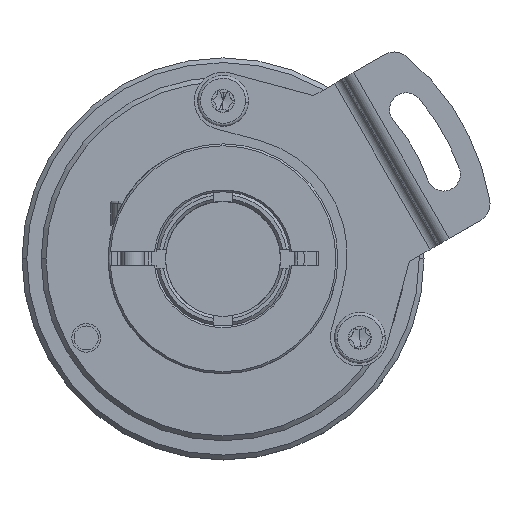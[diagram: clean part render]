
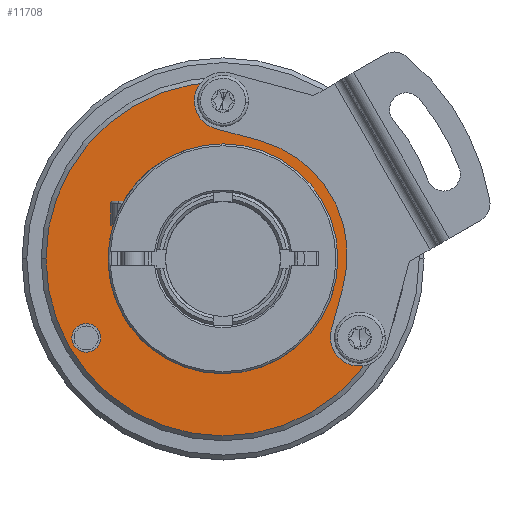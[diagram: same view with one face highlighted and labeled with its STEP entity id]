
A CAD part, top view. The second image highlights one B-rep face of the part: STEP entity #11708.
In plain terms, the highlighted planar face has unit normal (0, 0, 1).
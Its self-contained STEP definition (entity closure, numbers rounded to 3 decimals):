
#3782 = VERTEX_POINT ( 'NONE', #14486 ) ;
#4086 = EDGE_CURVE ( 'NONE', #3782, #4087, #9313, .T. ) ;
#4087 = VERTEX_POINT ( 'NONE', #9304 ) ;
#4155 = VERTEX_POINT ( 'NONE', #9434 ) ;
#4157 = EDGE_CURVE ( 'NONE', #4155, #4158, #9433, .T. ) ;
#4158 = VERTEX_POINT ( 'NONE', #9428 ) ;
#4197 = VERTEX_POINT ( 'NONE', #9533 ) ;
#4199 = EDGE_CURVE ( 'NONE', #4197, #4200, #9532, .T. ) ;
#4200 = VERTEX_POINT ( 'NONE', #9527 ) ;
#4241 = EDGE_CURVE ( 'NONE', #4242, #4243, #9579, .T. ) ;
#4242 = VERTEX_POINT ( 'NONE', #9575 ) ;
#4243 = VERTEX_POINT ( 'NONE', #9574 ) ;
#4265 = VERTEX_POINT ( 'NONE', #9661 ) ;
#4267 = EDGE_CURVE ( 'NONE', #4265, #4268, #9660, .T. ) ;
#4268 = VERTEX_POINT ( 'NONE', #9655 ) ;
#9304 = CARTESIAN_POINT ( 'NONE',  ( 15.789, -8.25, 0. ) ) ;
#9305 = DIRECTION ( 'NONE',  ( 1., 0., 0. ) ) ;
#9306 = DIRECTION ( 'NONE',  ( 0., 0., 1. ) ) ;
#9307 = CARTESIAN_POINT ( 'NONE',  ( 14.289, -8.25, 0. ) ) ;
#9308 = AXIS2_PLACEMENT_3D ( 'NONE', #9307, #9306, #9305 ) ;
#9313 = CIRCLE ( 'NONE', #9308, 1.5 ) ;
#9428 = CARTESIAN_POINT ( 'NONE',  ( -12.789, -8.25, 0. ) ) ;
#9429 = DIRECTION ( 'NONE',  ( 1., 0., 0. ) ) ;
#9430 = DIRECTION ( 'NONE',  ( 0., 0., 1. ) ) ;
#9431 = CARTESIAN_POINT ( 'NONE',  ( -14.289, -8.25, 0. ) ) ;
#9432 = AXIS2_PLACEMENT_3D ( 'NONE', #9431, #9430, #9429 ) ;
#9433 = CIRCLE ( 'NONE', #9432, 1.5 ) ;
#9434 = CARTESIAN_POINT ( 'NONE',  ( -15.789, -8.25, 0. ) ) ;
#9527 = CARTESIAN_POINT ( 'NONE',  ( 1.5, 16.5, 0. ) ) ;
#9528 = DIRECTION ( 'NONE',  ( 1., 0., 0. ) ) ;
#9529 = DIRECTION ( 'NONE',  ( 0., 0., 1. ) ) ;
#9530 = CARTESIAN_POINT ( 'NONE',  ( 0., 16.5, 0. ) ) ;
#9531 = AXIS2_PLACEMENT_3D ( 'NONE', #9530, #9529, #9528 ) ;
#9532 = CIRCLE ( 'NONE', #9531, 1.5 ) ;
#9533 = CARTESIAN_POINT ( 'NONE',  ( -1.5, 16.5, 0. ) ) ;
#9574 = CARTESIAN_POINT ( 'NONE',  ( -18.5, 0., 0. ) ) ;
#9575 = CARTESIAN_POINT ( 'NONE',  ( 18.5, 0., 0. ) ) ;
#9576 = DIRECTION ( 'NONE',  ( -1., 0., 0. ) ) ;
#9577 = DIRECTION ( 'NONE',  ( 0., 0., 1. ) ) ;
#9578 = AXIS2_PLACEMENT_3D ( 'NONE', #9585, #9577, #9576 ) ;
#9579 = CIRCLE ( 'NONE', #9578, 18.5 ) ;
#9585 = CARTESIAN_POINT ( 'NONE',  ( 0., 0., 0. ) ) ;
#9655 = CARTESIAN_POINT ( 'NONE',  ( 12., 0., 0. ) ) ;
#9656 = DIRECTION ( 'NONE',  ( 1., 0., 0. ) ) ;
#9657 = DIRECTION ( 'NONE',  ( 0., 0., 1. ) ) ;
#9658 = CARTESIAN_POINT ( 'NONE',  ( 0., 0., 0. ) ) ;
#9659 = AXIS2_PLACEMENT_3D ( 'NONE', #9658, #9657, #9656 ) ;
#9660 = CIRCLE ( 'NONE', #9659, 12. ) ;
#9661 = CARTESIAN_POINT ( 'NONE',  ( -12., 0., 0. ) ) ;
#10833 = FACE_BOUND ( 'NONE', #11751, .T. ) ;
#10834 = PLANE ( 'NONE',  #10899 ) ;
#10835 = FACE_BOUND ( 'NONE', #11734, .T. ) ;
#10836 = FACE_OUTER_BOUND ( 'NONE', #11706, .T. ) ;
#10841 = FACE_BOUND ( 'NONE', #11714, .T. ) ;
#10842 = FACE_BOUND ( 'NONE', #11753, .T. ) ;
#10845 = DIRECTION ( 'NONE',  ( 1., 0., 0. ) ) ;
#10846 = DIRECTION ( 'NONE',  ( 0., 0., 1. ) ) ;
#10847 = CARTESIAN_POINT ( 'NONE',  ( 14.289, -8.25, 0. ) ) ;
#10848 = AXIS2_PLACEMENT_3D ( 'NONE', #10847, #10846, #10845 ) ;
#10853 = CIRCLE ( 'NONE', #10848, 1.5 ) ;
#10870 = AXIS2_PLACEMENT_3D ( 'NONE', #10933, #10932, #10931 ) ;
#10871 = CIRCLE ( 'NONE', #10870, 12. ) ;
#10872 = DIRECTION ( 'NONE',  ( 1., 0., 0. ) ) ;
#10873 = DIRECTION ( 'NONE',  ( 0., 0., 1. ) ) ;
#10874 = CARTESIAN_POINT ( 'NONE',  ( 0., 16.5, 0. ) ) ;
#10875 = AXIS2_PLACEMENT_3D ( 'NONE', #10874, #10873, #10872 ) ;
#10880 = CIRCLE ( 'NONE', #10875, 1.5 ) ;
#10896 = DIRECTION ( 'NONE',  ( -1., 0., 0. ) ) ;
#10897 = DIRECTION ( 'NONE',  ( 0., 0., -1. ) ) ;
#10898 = CARTESIAN_POINT ( 'NONE',  ( 0., 12., 0. ) ) ;
#10899 = AXIS2_PLACEMENT_3D ( 'NONE', #10898, #10897, #10896 ) ;
#10916 = DIRECTION ( 'NONE',  ( 1., 0., 0. ) ) ;
#10917 = DIRECTION ( 'NONE',  ( 0., 0., 1. ) ) ;
#10918 = CARTESIAN_POINT ( 'NONE',  ( -14.289, -8.25, 0. ) ) ;
#10919 = AXIS2_PLACEMENT_3D ( 'NONE', #10918, #10917, #10916 ) ;
#10920 = CIRCLE ( 'NONE', #10919, 1.5 ) ;
#10921 = DIRECTION ( 'NONE',  ( -1., 0., 0. ) ) ;
#10922 = DIRECTION ( 'NONE',  ( 0., 0., 1. ) ) ;
#10923 = CARTESIAN_POINT ( 'NONE',  ( 0., 0., 0. ) ) ;
#10924 = AXIS2_PLACEMENT_3D ( 'NONE', #10923, #10922, #10921 ) ;
#10925 = CIRCLE ( 'NONE', #10924, 18.5 ) ;
#10931 = DIRECTION ( 'NONE',  ( 1., 0., 0. ) ) ;
#10932 = DIRECTION ( 'NONE',  ( 0., 0., 1. ) ) ;
#10933 = CARTESIAN_POINT ( 'NONE',  ( 0., 0., 0. ) ) ;
#11701 = ORIENTED_EDGE ( 'NONE', *, *, #11732, .T. ) ;
#11702 = ORIENTED_EDGE ( 'NONE', *, *, #4241, .T. ) ;
#11704 = EDGE_CURVE ( 'NONE', #4087, #3782, #10853, .T. ) ;
#11706 = EDGE_LOOP ( 'NONE', ( #11701, #11702 ) ) ;
#11708 = ADVANCED_FACE ( 'NONE', ( #10833, #10842, #10841, #10836, #10835 ), #10834, .F. ) ;
#11712 = ORIENTED_EDGE ( 'NONE', *, *, #4267, .F. ) ;
#11714 = EDGE_LOOP ( 'NONE', ( #11721, #11735 ) ) ;
#11719 = EDGE_CURVE ( 'NONE', #4200, #4197, #10880, .T. ) ;
#11721 = ORIENTED_EDGE ( 'NONE', *, *, #11719, .F. ) ;
#11724 = EDGE_CURVE ( 'NONE', #4268, #4265, #10871, .T. ) ;
#11728 = ORIENTED_EDGE ( 'NONE', *, *, #11724, .F. ) ;
#11729 = ORIENTED_EDGE ( 'NONE', *, *, #11740, .F. ) ;
#11731 = ORIENTED_EDGE ( 'NONE', *, *, #4086, .F. ) ;
#11732 = EDGE_CURVE ( 'NONE', #4243, #4242, #10925, .T. ) ;
#11734 = EDGE_LOOP ( 'NONE', ( #11728, #11712 ) ) ;
#11735 = ORIENTED_EDGE ( 'NONE', *, *, #4199, .F. ) ;
#11740 = EDGE_CURVE ( 'NONE', #4158, #4155, #10920, .T. ) ;
#11744 = ORIENTED_EDGE ( 'NONE', *, *, #11704, .F. ) ;
#11751 = EDGE_LOOP ( 'NONE', ( #11744, #11731 ) ) ;
#11753 = EDGE_LOOP ( 'NONE', ( #11729, #11754 ) ) ;
#11754 = ORIENTED_EDGE ( 'NONE', *, *, #4157, .F. ) ;
#14486 = CARTESIAN_POINT ( 'NONE',  ( 12.789, -8.25, 0. ) ) ;
